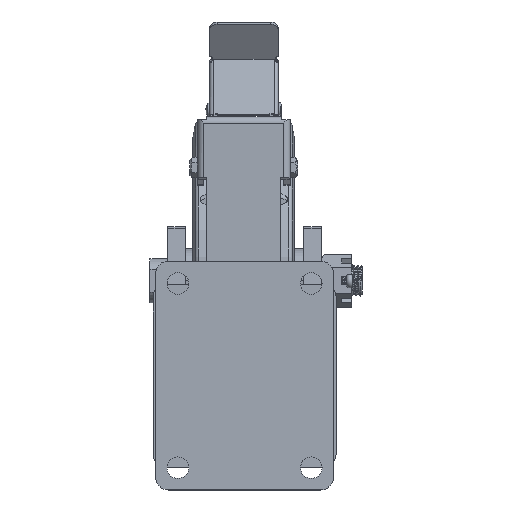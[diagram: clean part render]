
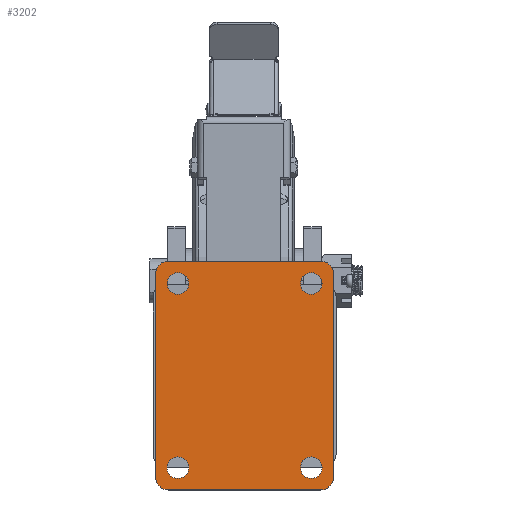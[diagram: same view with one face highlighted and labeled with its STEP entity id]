
A CAD part, top view. The second image highlights one B-rep face of the part: STEP entity #3202.
In plain terms, the highlighted planar face has unit normal (0, 0, 1).
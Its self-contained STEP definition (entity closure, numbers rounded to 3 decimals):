
#2292=PLANE('',#19642);
#2739=FACE_BOUND('',#5374,.T.);
#2740=FACE_BOUND('',#5375,.T.);
#2741=FACE_BOUND('',#5376,.T.);
#2742=FACE_BOUND('',#5377,.T.);
#2743=FACE_BOUND('',#5378,.T.);
#3202=ADVANCED_FACE('',(#2739,#2740,#2741,#2742,#2743),#2292,.F.);
#5374=EDGE_LOOP('',(#8324,#8325,#8326,#8327,#8328,#8329,#8330,#8331));
#5375=EDGE_LOOP('',(#8332,#8333));
#5376=EDGE_LOOP('',(#8334,#8335));
#5377=EDGE_LOOP('',(#8336,#8337));
#5378=EDGE_LOOP('',(#8338,#8339));
#6418=CIRCLE('',#19630,10.);
#6419=CIRCLE('',#19631,10.);
#6420=CIRCLE('',#19632,10.);
#6421=CIRCLE('',#19633,10.);
#6422=CIRCLE('',#19634,8.5);
#6423=CIRCLE('',#19635,8.5);
#6424=CIRCLE('',#19636,8.5);
#6425=CIRCLE('',#19637,8.5);
#6426=CIRCLE('',#19638,8.5);
#6427=CIRCLE('',#19639,8.5);
#6428=CIRCLE('',#19640,8.5);
#6429=CIRCLE('',#19641,8.5);
#8324=ORIENTED_EDGE('',*,*,#14765,.T.);
#8325=ORIENTED_EDGE('',*,*,#14766,.T.);
#8326=ORIENTED_EDGE('',*,*,#14767,.T.);
#8327=ORIENTED_EDGE('',*,*,#14768,.T.);
#8328=ORIENTED_EDGE('',*,*,#14769,.T.);
#8329=ORIENTED_EDGE('',*,*,#14770,.T.);
#8330=ORIENTED_EDGE('',*,*,#14771,.T.);
#8331=ORIENTED_EDGE('',*,*,#14772,.T.);
#8332=ORIENTED_EDGE('',*,*,#14773,.T.);
#8333=ORIENTED_EDGE('',*,*,#14774,.T.);
#8334=ORIENTED_EDGE('',*,*,#14775,.T.);
#8335=ORIENTED_EDGE('',*,*,#14776,.T.);
#8336=ORIENTED_EDGE('',*,*,#14777,.T.);
#8337=ORIENTED_EDGE('',*,*,#14778,.T.);
#8338=ORIENTED_EDGE('',*,*,#14779,.T.);
#8339=ORIENTED_EDGE('',*,*,#14780,.T.);
#12744=VERTEX_POINT('',#28870);
#12745=VERTEX_POINT('',#28871);
#12746=VERTEX_POINT('',#28873);
#12747=VERTEX_POINT('',#28875);
#12748=VERTEX_POINT('',#28877);
#12749=VERTEX_POINT('',#28879);
#12750=VERTEX_POINT('',#28881);
#12751=VERTEX_POINT('',#28883);
#12752=VERTEX_POINT('',#28886);
#12753=VERTEX_POINT('',#28887);
#12754=VERTEX_POINT('',#28890);
#12755=VERTEX_POINT('',#28891);
#12756=VERTEX_POINT('',#28894);
#12757=VERTEX_POINT('',#28895);
#12758=VERTEX_POINT('',#28898);
#12759=VERTEX_POINT('',#28899);
#14765=EDGE_CURVE('',#12744,#12745,#6418,.T.);
#14766=EDGE_CURVE('',#12745,#12746,#16940,.T.);
#14767=EDGE_CURVE('',#12746,#12747,#6419,.T.);
#14768=EDGE_CURVE('',#12747,#12748,#16941,.T.);
#14769=EDGE_CURVE('',#12748,#12749,#6420,.T.);
#14770=EDGE_CURVE('',#12749,#12750,#16942,.T.);
#14771=EDGE_CURVE('',#12750,#12751,#6421,.T.);
#14772=EDGE_CURVE('',#12751,#12744,#16943,.T.);
#14773=EDGE_CURVE('',#12752,#12753,#6422,.T.);
#14774=EDGE_CURVE('',#12753,#12752,#6423,.T.);
#14775=EDGE_CURVE('',#12754,#12755,#6424,.T.);
#14776=EDGE_CURVE('',#12755,#12754,#6425,.T.);
#14777=EDGE_CURVE('',#12756,#12757,#6426,.T.);
#14778=EDGE_CURVE('',#12757,#12756,#6427,.T.);
#14779=EDGE_CURVE('',#12758,#12759,#6428,.T.);
#14780=EDGE_CURVE('',#12759,#12758,#6429,.T.);
#16940=LINE('',#28872,#18247);
#16941=LINE('',#28876,#18248);
#16942=LINE('',#28880,#18249);
#16943=LINE('',#28884,#18250);
#18247=VECTOR('',#22002,1.);
#18248=VECTOR('',#22005,1.);
#18249=VECTOR('',#22008,1.);
#18250=VECTOR('',#22011,1.);
#19630=AXIS2_PLACEMENT_3D('',#28869,#22000,#22001);
#19631=AXIS2_PLACEMENT_3D('',#28874,#22003,#22004);
#19632=AXIS2_PLACEMENT_3D('',#28878,#22006,#22007);
#19633=AXIS2_PLACEMENT_3D('',#28882,#22009,#22010);
#19634=AXIS2_PLACEMENT_3D('',#28885,#22012,#22013);
#19635=AXIS2_PLACEMENT_3D('',#28888,#22014,#22015);
#19636=AXIS2_PLACEMENT_3D('',#28889,#22016,#22017);
#19637=AXIS2_PLACEMENT_3D('',#28892,#22018,#22019);
#19638=AXIS2_PLACEMENT_3D('',#28893,#22020,#22021);
#19639=AXIS2_PLACEMENT_3D('',#28896,#22022,#22023);
#19640=AXIS2_PLACEMENT_3D('',#28897,#22024,#22025);
#19641=AXIS2_PLACEMENT_3D('',#28900,#22026,#22027);
#19642=AXIS2_PLACEMENT_3D('',#28901,#22028,#22029);
#22000=DIRECTION('',(0.,0.,1.));
#22001=DIRECTION('',(0.,-1.,0.));
#22002=DIRECTION('',(0.,1.,0.));
#22003=DIRECTION('',(0.,0.,1.));
#22004=DIRECTION('',(1.,0.,0.));
#22005=DIRECTION('',(-1.,0.,0.));
#22006=DIRECTION('',(0.,0.,1.));
#22007=DIRECTION('',(0.,1.,0.));
#22008=DIRECTION('',(0.,-1.,0.));
#22009=DIRECTION('',(0.,0.,1.));
#22010=DIRECTION('',(-1.,0.,0.));
#22011=DIRECTION('',(1.,0.,0.));
#22012=DIRECTION('',(0.,0.,-1.));
#22013=DIRECTION('',(1.,0.,0.));
#22014=DIRECTION('',(0.,0.,-1.));
#22015=DIRECTION('',(-1.,0.,0.));
#22016=DIRECTION('',(0.,0.,-1.));
#22017=DIRECTION('',(1.,0.,0.));
#22018=DIRECTION('',(0.,0.,-1.));
#22019=DIRECTION('',(-1.,0.,0.));
#22020=DIRECTION('',(0.,0.,-1.));
#22021=DIRECTION('',(1.,0.,0.));
#22022=DIRECTION('',(0.,0.,-1.));
#22023=DIRECTION('',(-1.,0.,0.));
#22024=DIRECTION('',(0.,0.,-1.));
#22025=DIRECTION('',(1.,0.,0.));
#22026=DIRECTION('',(0.,0.,-1.));
#22027=DIRECTION('',(-1.,0.,0.));
#22028=DIRECTION('',(0.,0.,-1.));
#22029=DIRECTION('',(-1.,0.,0.));
#28869=CARTESIAN_POINT('',(60.,-80.,0.));
#28870=CARTESIAN_POINT('',(60.,-90.,0.));
#28871=CARTESIAN_POINT('',(70.,-80.,0.));
#28872=CARTESIAN_POINT('',(70.,-80.,0.));
#28873=CARTESIAN_POINT('',(70.,80.,0.));
#28874=CARTESIAN_POINT('',(60.,80.,0.));
#28875=CARTESIAN_POINT('',(60.,90.,0.));
#28876=CARTESIAN_POINT('',(60.,90.,0.));
#28877=CARTESIAN_POINT('',(-60.,90.,0.));
#28878=CARTESIAN_POINT('',(-60.,80.,0.));
#28879=CARTESIAN_POINT('',(-70.,80.,0.));
#28880=CARTESIAN_POINT('',(-70.,80.,0.));
#28881=CARTESIAN_POINT('',(-70.,-80.,0.));
#28882=CARTESIAN_POINT('',(-60.,-80.,0.));
#28883=CARTESIAN_POINT('',(-60.,-90.,0.));
#28884=CARTESIAN_POINT('',(-60.,-90.,0.));
#28885=CARTESIAN_POINT('',(52.5,72.5,0.));
#28886=CARTESIAN_POINT('',(61.,72.5,0.));
#28887=CARTESIAN_POINT('',(44.,72.5,0.));
#28888=CARTESIAN_POINT('',(52.5,72.5,0.));
#28889=CARTESIAN_POINT('',(-52.5,-72.5,0.));
#28890=CARTESIAN_POINT('',(-44.,-72.5,0.));
#28891=CARTESIAN_POINT('',(-61.,-72.5,0.));
#28892=CARTESIAN_POINT('',(-52.5,-72.5,0.));
#28893=CARTESIAN_POINT('',(52.5,-72.5,0.));
#28894=CARTESIAN_POINT('',(61.,-72.5,0.));
#28895=CARTESIAN_POINT('',(44.,-72.5,0.));
#28896=CARTESIAN_POINT('',(52.5,-72.5,0.));
#28897=CARTESIAN_POINT('',(-52.5,72.5,0.));
#28898=CARTESIAN_POINT('',(-44.,72.5,0.));
#28899=CARTESIAN_POINT('',(-61.,72.5,0.));
#28900=CARTESIAN_POINT('',(-52.5,72.5,0.));
#28901=CARTESIAN_POINT('',(0.,0.,0.));
